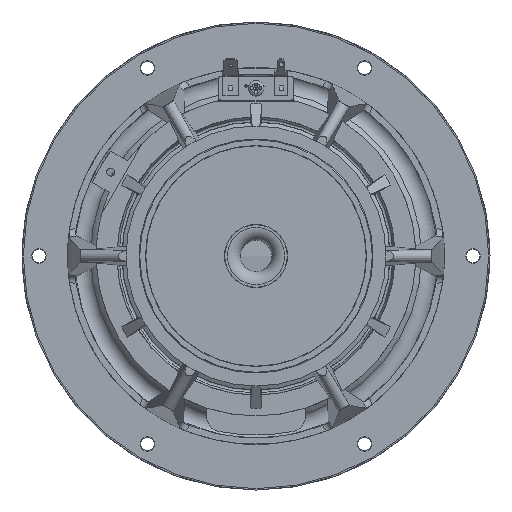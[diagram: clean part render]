
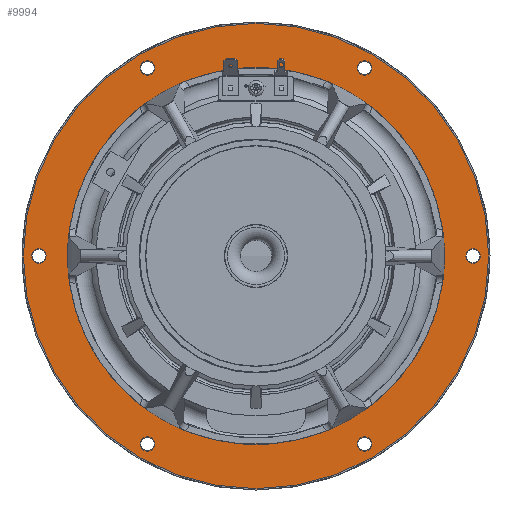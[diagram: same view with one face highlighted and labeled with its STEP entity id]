
A CAD part, front view. The second image highlights one B-rep face of the part: STEP entity #9994.
In plain terms, the highlighted planar face has unit normal (0, -1, 0).
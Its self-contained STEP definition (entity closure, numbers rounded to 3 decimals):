
#615=FACE_BOUND('',#2366,.T.);
#616=FACE_BOUND('',#2367,.T.);
#617=FACE_BOUND('',#2368,.T.);
#618=FACE_BOUND('',#2369,.T.);
#619=FACE_BOUND('',#2370,.T.);
#620=FACE_BOUND('',#2371,.T.);
#621=FACE_BOUND('',#2372,.T.);
#1206=CIRCLE('',#11148,89.5);
#1207=CIRCLE('',#11149,72.5);
#1208=CIRCLE('',#11150,2.75);
#1209=CIRCLE('',#11151,2.75);
#1210=CIRCLE('',#11152,2.75);
#1211=CIRCLE('',#11153,2.75);
#1212=CIRCLE('',#11154,2.75);
#1213=CIRCLE('',#11155,2.75);
#1750=FACE_OUTER_BOUND('',#2365,.T.);
#2365=EDGE_LOOP('',(#9158));
#2366=EDGE_LOOP('',(#9159));
#2367=EDGE_LOOP('',(#9160));
#2368=EDGE_LOOP('',(#9161));
#2369=EDGE_LOOP('',(#9162));
#2370=EDGE_LOOP('',(#9163));
#2371=EDGE_LOOP('',(#9164));
#2372=EDGE_LOOP('',(#9165));
#4690=VERTEX_POINT('',#19455);
#4691=VERTEX_POINT('',#19457);
#4692=VERTEX_POINT('',#19459);
#4693=VERTEX_POINT('',#19461);
#4694=VERTEX_POINT('',#19463);
#4695=VERTEX_POINT('',#19465);
#4696=VERTEX_POINT('',#19467);
#4697=VERTEX_POINT('',#19469);
#6182=EDGE_CURVE('',#4690,#4690,#1206,.T.);
#6183=EDGE_CURVE('',#4691,#4691,#1207,.T.);
#6184=EDGE_CURVE('',#4692,#4692,#1208,.T.);
#6185=EDGE_CURVE('',#4693,#4693,#1209,.T.);
#6186=EDGE_CURVE('',#4694,#4694,#1210,.T.);
#6187=EDGE_CURVE('',#4695,#4695,#1211,.T.);
#6188=EDGE_CURVE('',#4696,#4696,#1212,.T.);
#6189=EDGE_CURVE('',#4697,#4697,#1213,.T.);
#9158=ORIENTED_EDGE('',*,*,#6182,.F.);
#9159=ORIENTED_EDGE('',*,*,#6183,.F.);
#9160=ORIENTED_EDGE('',*,*,#6184,.T.);
#9161=ORIENTED_EDGE('',*,*,#6185,.T.);
#9162=ORIENTED_EDGE('',*,*,#6186,.T.);
#9163=ORIENTED_EDGE('',*,*,#6187,.T.);
#9164=ORIENTED_EDGE('',*,*,#6188,.T.);
#9165=ORIENTED_EDGE('',*,*,#6189,.T.);
#9464=PLANE('',#11147);
#9994=ADVANCED_FACE('',(#1750,#615,#616,#617,#618,#619,#620,#621),#9464,
 .F.);
#11147=AXIS2_PLACEMENT_3D('',#19454,#14077,#14078);
#11148=AXIS2_PLACEMENT_3D('',#19456,#14079,#14080);
#11149=AXIS2_PLACEMENT_3D('',#19458,#14081,#14082);
#11150=AXIS2_PLACEMENT_3D('',#19460,#14083,#14084);
#11151=AXIS2_PLACEMENT_3D('',#19462,#14085,#14086);
#11152=AXIS2_PLACEMENT_3D('',#19464,#14087,#14088);
#11153=AXIS2_PLACEMENT_3D('',#19466,#14089,#14090);
#11154=AXIS2_PLACEMENT_3D('',#19468,#14091,#14092);
#11155=AXIS2_PLACEMENT_3D('',#19470,#14093,#14094);
#14077=DIRECTION('center_axis',(0.,1.,0.));
#14078=DIRECTION('ref_axis',(1.,0.,0.));
#14079=DIRECTION('center_axis',(0.,1.,0.));
#14080=DIRECTION('ref_axis',(1.,0.,0.));
#14081=DIRECTION('center_axis',(0.,-1.,0.));
#14082=DIRECTION('ref_axis',(1.,0.,0.));
#14083=DIRECTION('center_axis',(0.,1.,0.));
#14084=DIRECTION('ref_axis',(1.,0.,0.));
#14085=DIRECTION('center_axis',(0.,1.,0.));
#14086=DIRECTION('ref_axis',(0.5,0.,-0.866));
#14087=DIRECTION('center_axis',(0.,1.,0.));
#14088=DIRECTION('ref_axis',(-0.5,0.,-0.866));
#14089=DIRECTION('center_axis',(0.,1.,0.));
#14090=DIRECTION('ref_axis',(-1.,0.,0.));
#14091=DIRECTION('center_axis',(0.,1.,0.));
#14092=DIRECTION('ref_axis',(-0.5,0.,0.866));
#14093=DIRECTION('center_axis',(0.,1.,0.));
#14094=DIRECTION('ref_axis',(0.5,0.,0.866));
#19454=CARTESIAN_POINT('Origin',(0.,0.,0.));
#19455=CARTESIAN_POINT('',(-89.5,0.,0.));
#19456=CARTESIAN_POINT('Origin',(0.,0.,0.));
#19457=CARTESIAN_POINT('',(-72.5,0.,0.));
#19458=CARTESIAN_POINT('Origin',(0.,0.,0.));
#19459=CARTESIAN_POINT('',(-2.75,0.,-83.5));
#19460=CARTESIAN_POINT('Origin',(0.,0.,-83.5));
#19461=CARTESIAN_POINT('',(-73.688,0.,-39.368));
#19462=CARTESIAN_POINT('Origin',(-72.313,0.,-41.75));
#19463=CARTESIAN_POINT('',(-70.938,0.,44.132));
#19464=CARTESIAN_POINT('Origin',(-72.313,0.,41.75));
#19465=CARTESIAN_POINT('',(2.75,0.,83.5));
#19466=CARTESIAN_POINT('Origin',(0.,0.,83.5));
#19467=CARTESIAN_POINT('',(73.688,0.,39.368));
#19468=CARTESIAN_POINT('Origin',(72.313,0.,41.75));
#19469=CARTESIAN_POINT('',(70.938,0.,-44.132));
#19470=CARTESIAN_POINT('Origin',(72.313,0.,-41.75));
